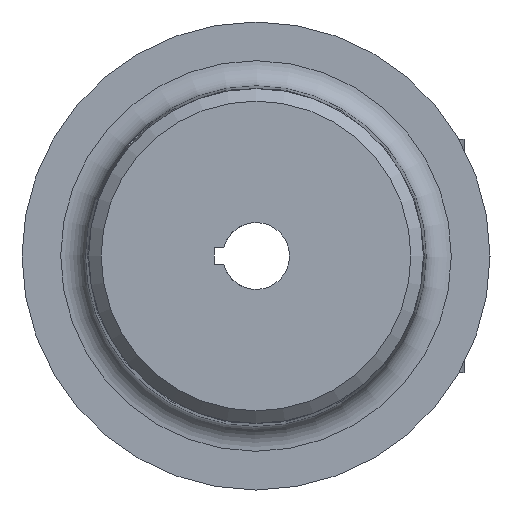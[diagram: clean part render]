
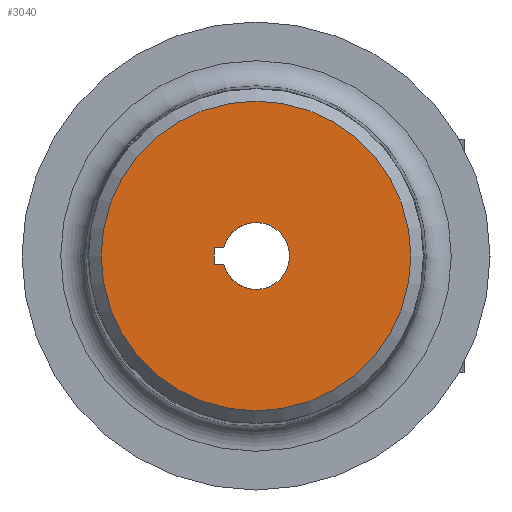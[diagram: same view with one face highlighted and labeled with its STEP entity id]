
A CAD part, left-side view. The second image highlights one B-rep face of the part: STEP entity #3040.
In plain terms, the highlighted planar face has unit normal (-1, 0, 0) as drawn and (0, 0, -1) by its records, which use the part's own axes.
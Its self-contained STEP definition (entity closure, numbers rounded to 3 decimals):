
#189=FACE_BOUND('',#623,.T.);
#254=PLANE('',#3551);
#422=FACE_OUTER_BOUND('',#622,.T.);
#622=EDGE_LOOP('',(#2806));
#623=EDGE_LOOP('',(#2807,#2808,#2809,#2810));
#902=CIRCLE('',#3481,4.);
#943=CIRCLE('',#3550,18.528);
#1049=LINE('',#6717,#1165);
#1054=LINE('',#6728,#1170);
#1056=LINE('',#6733,#1172);
#1165=VECTOR('',#4254,10.);
#1170=VECTOR('',#4263,10.);
#1172=VECTOR('',#4267,10.);
#1426=VERTEX_POINT('',#6714);
#1427=VERTEX_POINT('',#6716);
#1431=VERTEX_POINT('',#6726);
#1433=VERTEX_POINT('',#6732);
#1477=VERTEX_POINT('',#6972);
#1849=EDGE_CURVE('',#1427,#1426,#1049,.T.);
#1855=EDGE_CURVE('',#1426,#1431,#1054,.T.);
#1857=EDGE_CURVE('',#1433,#1427,#1056,.T.);
#1860=EDGE_CURVE('',#1431,#1433,#902,.T.);
#1926=EDGE_CURVE('',#1477,#1477,#943,.T.);
#2806=ORIENTED_EDGE('',*,*,#1926,.F.);
#2807=ORIENTED_EDGE('',*,*,#1857,.T.);
#2808=ORIENTED_EDGE('',*,*,#1849,.T.);
#2809=ORIENTED_EDGE('',*,*,#1855,.T.);
#2810=ORIENTED_EDGE('',*,*,#1860,.T.);
#3040=ADVANCED_FACE('',(#422,#189),#254,.T.);
#3481=AXIS2_PLACEMENT_3D('',#6737,#4273,#4274);
#3550=AXIS2_PLACEMENT_3D('',#6974,#4415,#4416);
#3551=AXIS2_PLACEMENT_3D('',#6975,#4417,#4418);
#4254=DIRECTION('',(1.,0.,0.));
#4263=DIRECTION('',(0.,1.,0.));
#4267=DIRECTION('',(0.,-1.,0.));
#4273=DIRECTION('center_axis',(0.,0.,
1.));
#4274=DIRECTION('ref_axis',(1.,0.,0.));
#4415=DIRECTION('center_axis',(0.,0.,
1.));
#4416=DIRECTION('ref_axis',(0.,-1.,0.));
#4417=DIRECTION('center_axis',(0.,0.,
-1.));
#4418=DIRECTION('ref_axis',(0.,-1.,0.));
#6714=CARTESIAN_POINT('',(1.,-5.,-30.));
#6716=CARTESIAN_POINT('',(-1.,-5.,-30.));
#6717=CARTESIAN_POINT('',(-0.5,-5.,-30.));
#6726=CARTESIAN_POINT('',(1.,-3.873,-30.));
#6728=CARTESIAN_POINT('',(1.,-2.5,-30.));
#6732=CARTESIAN_POINT('',(-1.,-3.873,-30.));
#6733=CARTESIAN_POINT('',(-1.,-1.936,-30.));
#6737=CARTESIAN_POINT('Origin',(0.,0.,
-30.));
#6972=CARTESIAN_POINT('',(0.,18.528,-30.));
#6974=CARTESIAN_POINT('Origin',(0.,0.,-30.));
#6975=CARTESIAN_POINT('Origin',(0.,0.,
-30.));
